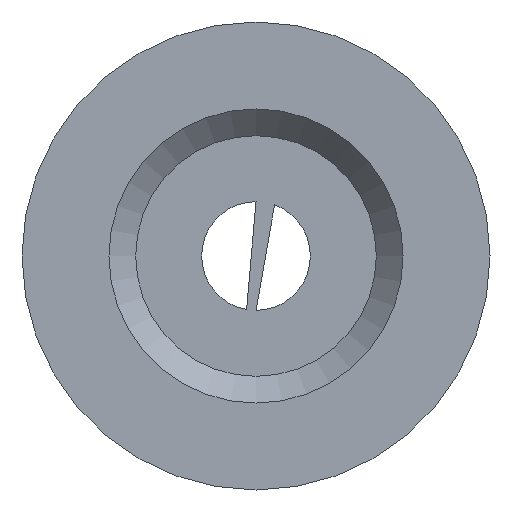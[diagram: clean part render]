
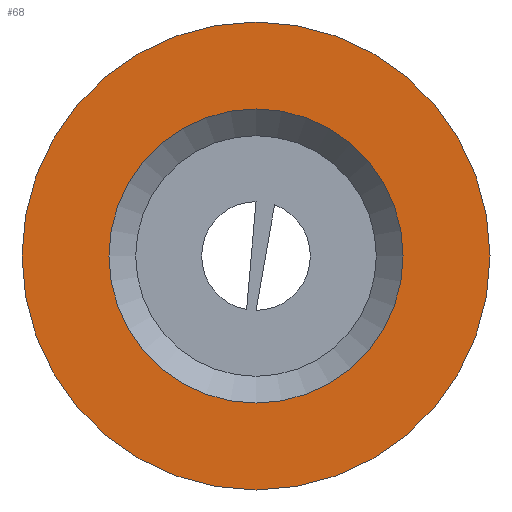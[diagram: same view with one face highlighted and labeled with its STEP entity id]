
A CAD part, left-side view. The second image highlights one B-rep face of the part: STEP entity #68.
In plain terms, the highlighted planar face has unit normal (-1, 0, 0).
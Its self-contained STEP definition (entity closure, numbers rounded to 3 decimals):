
#27=CARTESIAN_POINT('',(58.5,0.,55.32));
#28=DIRECTION('',(-1.,0.,0.));
#29=DIRECTION('',(0.,0.,1.));
#30=AXIS2_PLACEMENT_3D('',#27,#28,#29);
#31=PLANE('',#30);
#32=CARTESIAN_POINT('',(58.5,0.,60.52));
#33=VERTEX_POINT('',#32);
#34=CARTESIAN_POINT('',(58.5,0.,55.32));
#35=VERTEX_POINT('',#34);
#36=CARTESIAN_POINT('',(58.5,0.,60.52));
#37=DIRECTION('',(0.,0.,-1.));
#38=VECTOR('',#37,5.2);
#39=LINE('',#36,#38);
#40=EDGE_CURVE('',#33,#35,#39,.T.);
#41=ORIENTED_EDGE('',*,*,#40,.F.);
#42=CARTESIAN_POINT('',(58.5,-0.,32.52));
#43=VERTEX_POINT('',#42);
#44=CARTESIAN_POINT('',(58.5,0.,46.52));
#45=DIRECTION('',(1.,0.,0.));
#46=DIRECTION('',(0.,0.,-1.));
#47=AXIS2_PLACEMENT_3D('',#44,#45,#46);
#48=CIRCLE('',#47,14.);
#49=EDGE_CURVE('',#43,#33,#48,.T.);
#50=ORIENTED_EDGE('',*,*,#49,.F.);
#51=CARTESIAN_POINT('',(58.5,0.,46.52));
#52=DIRECTION('',(1.,0.,0.));
#53=DIRECTION('',(0.,0.,-1.));
#54=AXIS2_PLACEMENT_3D('',#51,#52,#53);
#55=CIRCLE('',#54,14.);
#56=EDGE_CURVE('',#33,#43,#55,.T.);
#57=ORIENTED_EDGE('',*,*,#56,.F.);
#58=ORIENTED_EDGE('',*,*,#40,.T.);
#59=CARTESIAN_POINT('',(58.5,0.,46.52));
#60=DIRECTION('',(1.,0.,0.));
#61=DIRECTION('',(0.,0.,-1.));
#62=AXIS2_PLACEMENT_3D('',#59,#60,#61);
#63=CIRCLE('',#62,8.8);
#64=EDGE_CURVE('',#35,#35,#63,.T.);
#65=ORIENTED_EDGE('',*,*,#64,.T.);
#66=EDGE_LOOP('',(#41,#50,#57,#58,#65));
#67=FACE_BOUND('',#66,.T.);
#68=ADVANCED_FACE('',(#67),#31,.T.);
